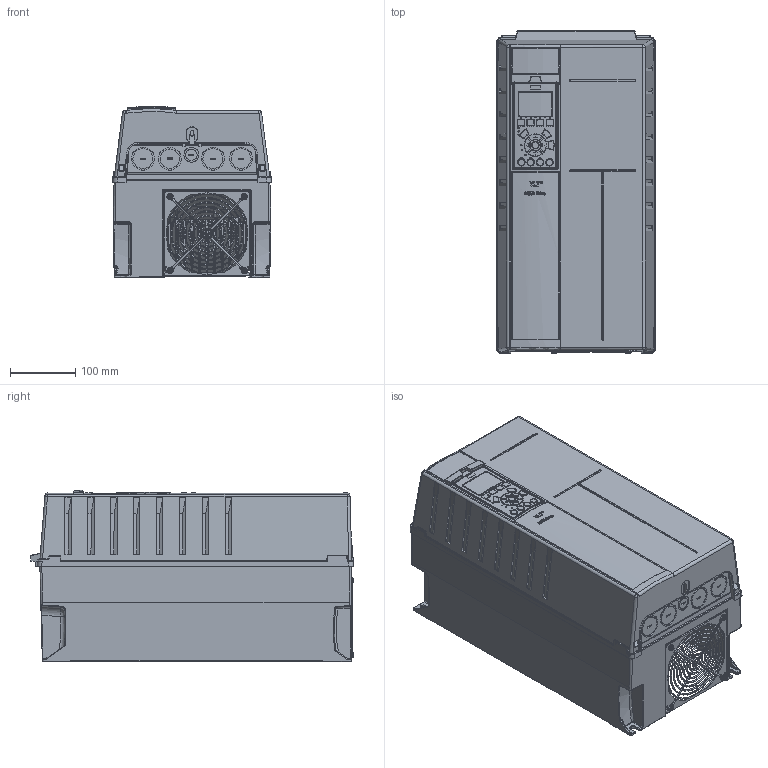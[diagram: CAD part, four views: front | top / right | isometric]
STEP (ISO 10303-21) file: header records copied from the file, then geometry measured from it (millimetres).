
FILE_DESCRIPTION((''),'2;1');
FILE_NAME('DANFOSS-FC200-B1-IP21','2011-10-27T',('cstephenkumar'),('Be-Atch INC. 1993'),'PRO/ENGINEER BY PARAMETRIC TECHNOLOGY CORPORATION, 2009360','PRO/ENGINEER BY PARAMETRIC TECHNOLOGY CORPORATION, 2009360','');
FILE_SCHEMA(('AUTOMOTIVE_DESIGN { 1 0 10303 214 1 1 1 1 }'));
Products named in the file (1): DANFOSS-FC200-B1-IP21
Bounding box: 242.5 x 493.94 x 261.76 mm (x, y, z)
Volume: 21080544.6 mm3; surface area: 1560585.4 mm2
Topology: 1 solids, 20 shells, 3976 faces, 10091 edges, 6164 vertices
Faces by surface type: plane 1359, cylinder 1222, bspline 924, torus 233, cone 151, sphere 57, extrusion 30
Entity records: 162504 total; most frequent: CARTESIAN_POINT 71018, ORIENTED_EDGE 20056, DIRECTION 15195, EDGE_CURVE 10028, VERTEX_POINT 6164, AXIS2_PLACEMENT_3D 5283, VECTOR 4629, LINE 4599
